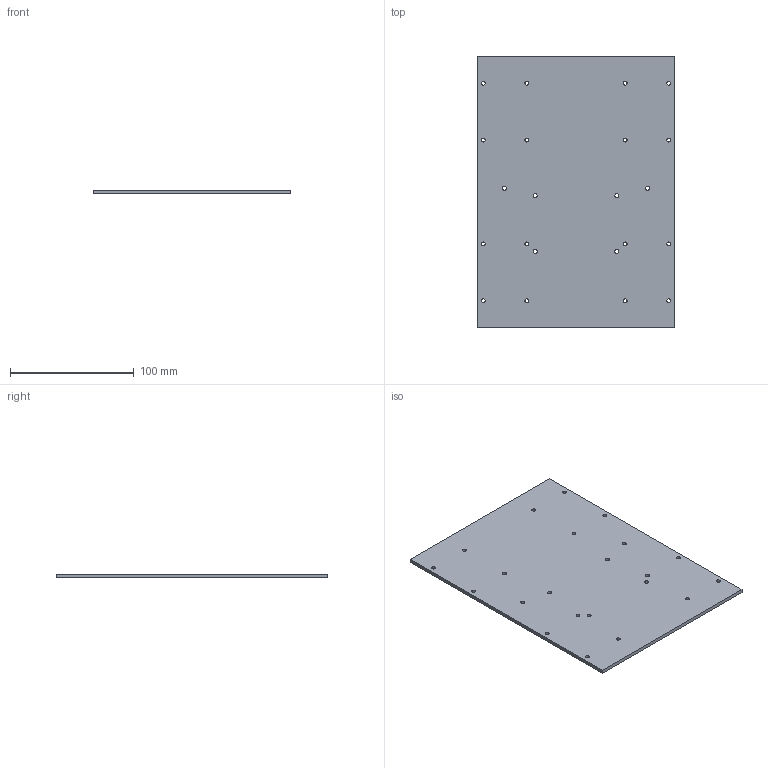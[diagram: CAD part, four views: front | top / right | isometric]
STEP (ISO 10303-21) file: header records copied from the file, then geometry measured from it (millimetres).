
FILE_DESCRIPTION(('Open CASCADE Model'),'2;1');
FILE_NAME('Open CASCADE Shape Model','2026-11-24T19:57:41',('Author'),( 'Open CASCADE'),'Open CASCADE STEP processor 7.8','Open CASCADE 7.8' ,'Unknown');
FILE_SCHEMA(('AUTOMOTIVE_DESIGN { 1 0 10303 214 1 1 1 1 }'));
Length unit declared in the file: millimetre
Products named in the file (1): Open CASCADE STEP translator 7.8 183
Bounding box: 160 x 220 x 3 mm (x, y, z)
Volume: 105083.8 mm3; surface area: 72989.9 mm2
Topology: 1 solids, 1 shells, 28 faces, 78 edges, 52 vertices
Faces by surface type: cylinder 22, plane 6
Full cylindrical faces by diameter (mm): 3.1 x16, 3.3 x6
Entity records: 2016 total; most frequent: CARTESIAN_POINT 337, DIRECTION 314, ORIENTED_EDGE 156, PCURVE 156, DEFINITIONAL_REPRESENTATION 156, LINE 124, VECTOR 124, CIRCLE 88
